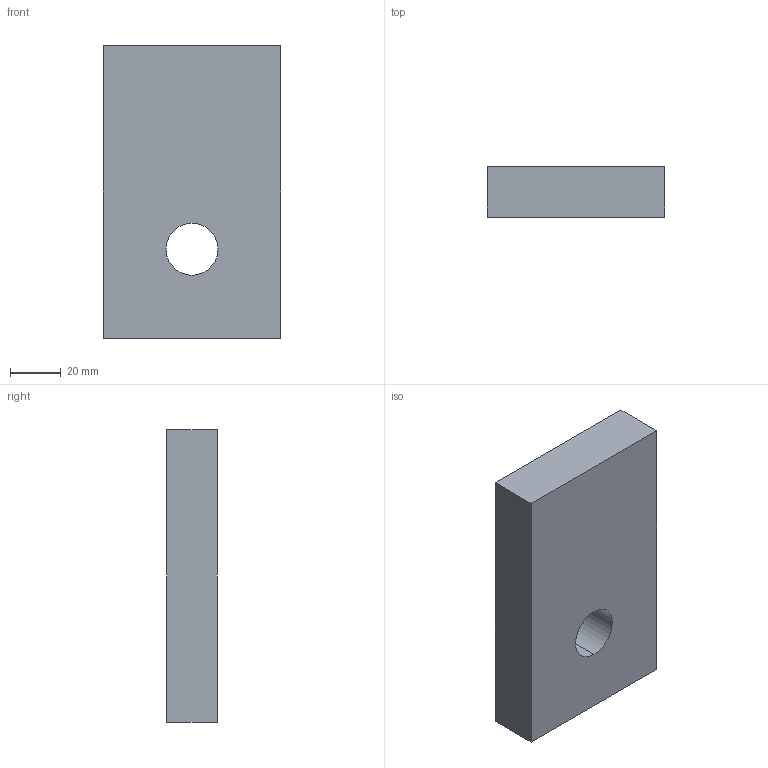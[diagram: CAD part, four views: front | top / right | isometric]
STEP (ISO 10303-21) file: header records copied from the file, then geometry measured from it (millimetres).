
FILE_DESCRIPTION (( 'STEP AP203' ), '1' );
FILE_NAME ('Druckplatte_110425.STEP', '2021-03-15T13:25:19', ( '' ), ( '' ), 'SwSTEP 2.0', 'SolidWorks 2013', '' );
FILE_SCHEMA (( 'CONFIG_CONTROL_DESIGN' ));
Length unit declared in the file: millimetre
Products named in the file (1): Druckplatte_110425
Bounding box: 70 x 20 x 115 mm (x, y, z)
Volume: 154398.7 mm3; surface area: 24127.9 mm2
Topology: 1 solids, 1 shells, 8 faces, 18 edges, 12 vertices
Faces by surface type: plane 6, cylinder 2
Entity records: 309 total; most frequent: DIRECTION 40, CARTESIAN_POINT 39, ORIENTED_EDGE 36, EDGE_CURVE 18, VECTOR 14, LINE 14, AXIS2_PLACEMENT_3D 13, VERTEX_POINT 12
